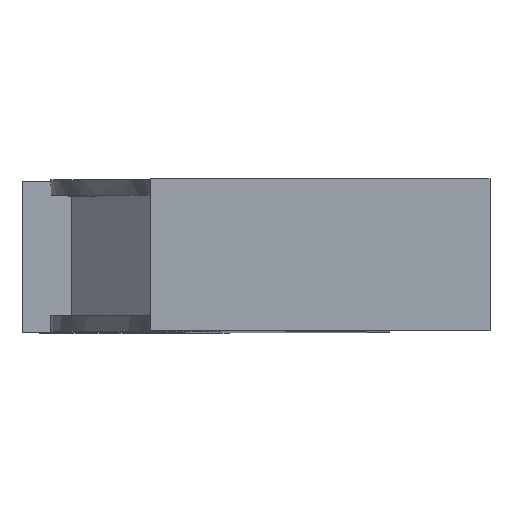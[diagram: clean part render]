
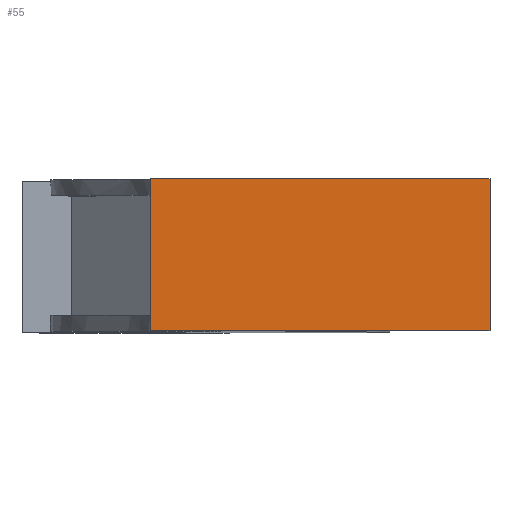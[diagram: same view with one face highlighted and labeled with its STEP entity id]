
A CAD part, top view. The second image highlights one B-rep face of the part: STEP entity #55.
In plain terms, the highlighted planar face has unit normal (0, 0, 1).
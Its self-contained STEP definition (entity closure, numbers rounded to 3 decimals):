
#55=ADVANCED_FACE('',(#84),#86,.T.);
#84=FACE_BOUND('',#85,.T.);
#85=EDGE_LOOP('',(#209,#210,#211,#212));
#86=PLANE('',#87);
#87=AXIS2_PLACEMENT_3D('',#88,#89,#90);
#88=CARTESIAN_POINT('',(100.,15.,115.148));
#89=DIRECTION('',(0.,0.,1.));
#90=DIRECTION('',(1.,0.,0.));
#209=ORIENTED_EDGE('',*,*,#298,.F.);
#210=ORIENTED_EDGE('',*,*,#299,.T.);
#211=ORIENTED_EDGE('',*,*,#300,.F.);
#212=ORIENTED_EDGE('',*,*,#296,.F.);
#296=EDGE_CURVE('',#339,#341,#342,.T.);
#298=EDGE_CURVE('',#344,#339,#345,.T.);
#299=EDGE_CURVE('',#344,#346,#347,.T.);
#300=EDGE_CURVE('',#341,#346,#348,.T.);
#339=VERTEX_POINT('',#415);
#341=VERTEX_POINT('',#419);
#342=LINE('',#420,#421);
#344=VERTEX_POINT('',#426);
#345=LINE('',#427,#428);
#346=VERTEX_POINT('',#430);
#347=LINE('',#431,#432);
#348=LINE('',#434,#435);
#415=CARTESIAN_POINT('',(185.,19.,115.148));
#419=CARTESIAN_POINT('',(185.,-19.,115.148));
#420=CARTESIAN_POINT('',(185.,19.,115.148));
#421=VECTOR('',#422,1.);
#422=DIRECTION('',(0.,-1.,0.));
#426=CARTESIAN_POINT('',(100.,19.,115.148));
#427=CARTESIAN_POINT('',(100.,19.,115.148));
#428=VECTOR('',#429,1.);
#429=DIRECTION('',(1.,0.,0.));
#430=CARTESIAN_POINT('',(100.,-19.,115.148));
#431=CARTESIAN_POINT('',(100.,19.,115.148));
#432=VECTOR('',#433,1.);
#433=DIRECTION('',(0.,-1.,0.));
#434=CARTESIAN_POINT('',(185.,-19.,115.148));
#435=VECTOR('',#436,1.);
#436=DIRECTION('',(-1.,0.,0.));
